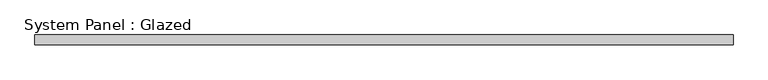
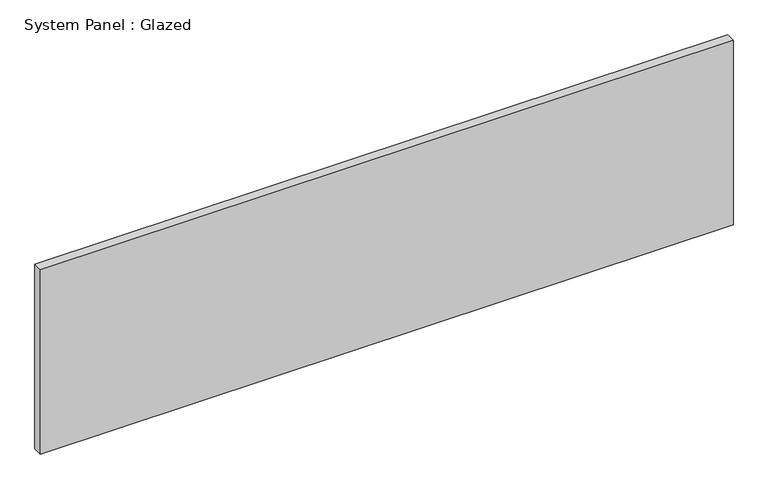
"""IFC4 building model written with IfcOpenShell, lengths in millimetres: plate geometry, System Panel : Glazed."""

from ifc_helpers import new_model, si_unit, origin, origin_with_axes, place, context, project, spatial, polyline, outline, extrude, source, transform, mapped, element, save


def system_panel_glazed_43cf15d5(model_context):
    return source(origin(), model_context, "Body", "SweptSolid", [
        extrude(outline(polyline([(914.4, -44.45), (-914.4, -44.45), (-914.4, -19.05), (914.4, -19.05), (914.4, -44.45)])), origin_with_axes(), (0.0, 0.0, 1.0), 514.35),
    ])


if __name__ == "__main__":
    model = new_model("IFC4")
    model_context = context("Model", 3, world=origin())
    ifc_project = project(units=[si_unit("LENGTHUNIT", "METRE", prefix="MILLI")], contexts=[model_context])
    site = spatial("IfcSite", under=ifc_project)
    building = spatial("IfcBuilding", under=site)
    placement = place(None, origin())
    system_panel_glazed_shape = system_panel_glazed_43cf15d5(model_context)
    element("IfcPlate", 1, ObjectType="System Panel : Glazed", at=placement, inside=building, context=model_context, shape_type="MappedRepresentation", body=[
        mapped(system_panel_glazed_shape, transform((0.0, 0.0, 0.0), x_axis=(1.0, 0.0, 0.0), y_axis=(0.0, 1.0, 0.0), z_axis=(0.0, 0.0, 1.0))),
    ])
    save(model, "model.ifc")
